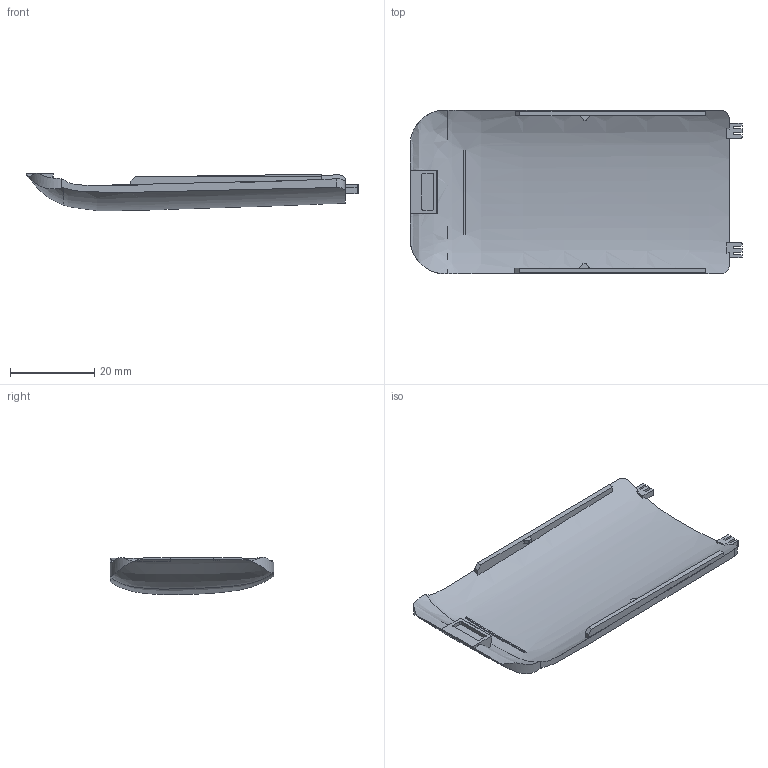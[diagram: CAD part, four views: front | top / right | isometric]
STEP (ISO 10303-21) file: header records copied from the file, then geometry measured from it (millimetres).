
FILE_DESCRIPTION(('Open CASCADE Model'),'2;1');
FILE_NAME('Open CASCADE Shape Model','2026-11-06T02:28:09',('Author'),( 'Open CASCADE'),'Open CASCADE STEP processor 7.8','Open CASCADE 7.8' ,'Unknown');
FILE_SCHEMA(('AUTOMOTIVE_DESIGN { 1 0 10303 214 1 1 1 1 }'));
Products named in the file (1): Open CASCADE STEP translator 7.8 1
Bounding box: 79.02 x 39.02 x 8.89 mm (x, y, z)
Volume: 7572 mm3; surface area: 7253.1 mm2
Topology: 1 solids, 1 shells, 108 faces, 347 edges, 247 vertices
Faces by surface type: plane 77, cylinder 24, bspline 7
Entity records: 56039 total; most frequent: CARTESIAN_POINT 50027, DIRECTION 831, ORIENTED_EDGE 694, PCURVE 694, DEFINITIONAL_REPRESENTATION 694, LINE 512, VECTOR 512, B_SPLINE_CURVE_WITH_KNOTS 439
